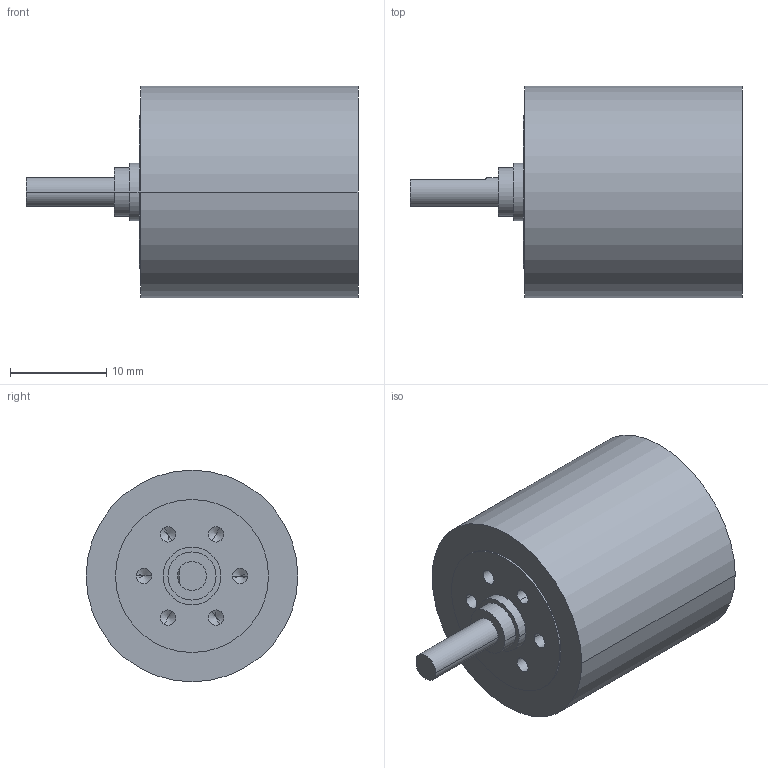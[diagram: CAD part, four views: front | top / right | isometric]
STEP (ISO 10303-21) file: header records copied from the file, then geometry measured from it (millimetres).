
FILE_DESCRIPTION((''),'2;1');
FILE_NAME('1118184','2010-02-04T',('MMAGMIBU'),(''),'PRO/ENGINEER BY PARAMETRIC TECHNOLOGY CORPORATION, 2009230','PRO/ENGINEER BY PARAMETRIC TECHNOLOGY CORPORATION, 2009230','');
FILE_SCHEMA(('CONFIG_CONTROL_DESIGN'));
Length unit declared in the file: millimetre
Products named in the file (1): 1118184
Bounding box: 34.5 x 22 x 22 mm (x, y, z)
Volume: 7934.8 mm3; surface area: 2707.1 mm2
Topology: 1 solids, 1 shells, 45 faces, 102 edges, 58 vertices
Faces by surface type: cylinder 24, cone 12, plane 9
Entity records: 1223 total; most frequent: DIRECTION 226, CARTESIAN_POINT 198, ORIENTED_EDGE 180, AXIS2_PLACEMENT_3D 93, EDGE_CURVE 90, VERTEX_POINT 58, EDGE_LOOP 56, CIRCLE 48
